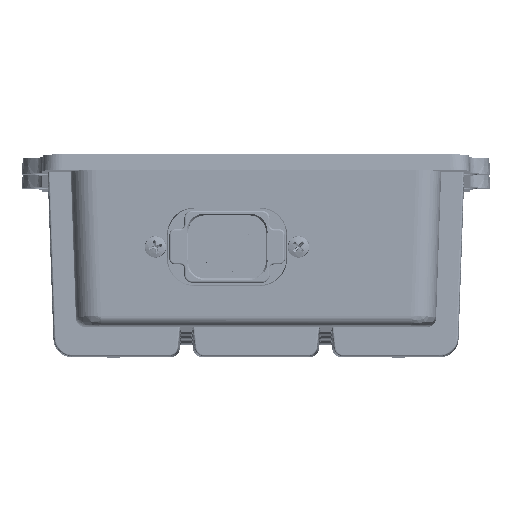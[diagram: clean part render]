
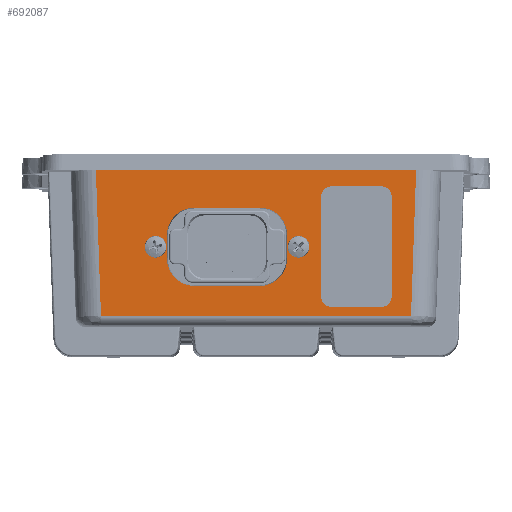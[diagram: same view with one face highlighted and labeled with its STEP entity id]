
A CAD part, top view. The second image highlights one B-rep face of the part: STEP entity #692087.
In plain terms, the highlighted planar face has unit normal (0, 0, 1) as drawn and (-0.999, -0.035, 0) by its records, which use the part's own axes.
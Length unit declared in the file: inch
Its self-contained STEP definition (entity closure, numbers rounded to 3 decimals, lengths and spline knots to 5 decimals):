
#531 = ORIENTED_EDGE ( 'NONE', *, *, #645127, .F. ) ;
#2735 = CARTESIAN_POINT ( 'NONE',  ( -3.74804, 0.73853, -1.10803 ) ) ;
#2767 = DIRECTION ( 'NONE',  ( 0.035, -0.999, 0. ) ) ;
#4236 = EDGE_CURVE ( 'NONE', #341285, #421535, #667146, .T. ) ;
#6109 = DIRECTION ( 'NONE',  ( 0., 0., -1. ) ) ;
#9907 = DIRECTION ( 'NONE',  ( 0., 0., -1. ) ) ;
#10429 = EDGE_LOOP ( 'NONE', ( #68180, #202149 ) ) ;
#11152 = EDGE_CURVE ( 'NONE', #421535, #137934, #320099, .T. ) ;
#18529 = ORIENTED_EDGE ( 'NONE', *, *, #279021, .F. ) ;
#18682 = VERTEX_POINT ( 'NONE', #694964 ) ;
#29589 = DIRECTION ( 'NONE',  ( 0.999, 0.035, 0. ) ) ;
#42112 = EDGE_LOOP ( 'NONE', ( #18529, #544403, #272720, #185116 ) ) ;
#42315 = AXIS2_PLACEMENT_3D ( 'NONE', #684395, #590003, #304230 ) ;
#43133 = LINE ( 'NONE', #531613, #76132 ) ;
#49088 = CARTESIAN_POINT ( 'NONE',  ( -3.7701, 1.37039, -0.76553 ) ) ;
#55108 = VERTEX_POINT ( 'NONE', #213773 ) ;
#59436 = EDGE_CURVE ( 'NONE', #110384, #229589, #490643, .T. ) ;
#63125 = ORIENTED_EDGE ( 'NONE', *, *, #559568, .F. ) ;
#68180 = ORIENTED_EDGE ( 'NONE', *, *, #72171, .T. ) ;
#68612 = EDGE_CURVE ( 'NONE', #413673, #376310, #91256, .T. ) ;
#72171 = EDGE_CURVE ( 'NONE', #376310, #413673, #407100, .T. ) ;
#74723 = CARTESIAN_POINT ( 'NONE',  ( -3.75309, 0.88331, -1.25 ) ) ;
#76132 = VECTOR ( 'NONE', #267153, 39.37008 ) ;
#82114 = CARTESIAN_POINT ( 'NONE',  ( -3.75641, 0.97825, -1.25 ) ) ;
#85620 = DIRECTION ( 'NONE',  ( -0.999, -0.035, 0. ) ) ;
#88650 = EDGE_LOOP ( 'NONE', ( #185360, #591407 ) ) ;
#91256 = CIRCLE ( 'NONE', #483583, 0.09499 ) ;
#102273 = EDGE_CURVE ( 'NONE', #229589, #110384, #434907, .T. ) ;
#104206 = CARTESIAN_POINT ( 'NONE',  ( -3.73608, 0.39624, 0.04553 ) ) ;
#107602 = CARTESIAN_POINT ( 'NONE',  ( -3.72298, 0.02099, 2.2375 ) ) ;
#109252 = DIRECTION ( 'NONE',  ( -0.035, 0.999, 0. ) ) ;
#110384 = VERTEX_POINT ( 'NONE', #82114 ) ;
#113435 = DIRECTION ( 'NONE',  ( 0.999, 0.035, 0. ) ) ;
#120580 = CARTESIAN_POINT ( 'NONE',  ( -3.75309, 0.88331, 0.53 ) ) ;
#122521 = CARTESIAN_POINT ( 'NONE',  ( -3.7701, 1.37039, 0.04553 ) ) ;
#122800 = EDGE_LOOP ( 'NONE', ( #239616, #232354, #698345, #516011, #331138, #63125, #531, #325919 ) ) ;
#124257 = EDGE_CURVE ( 'NONE', #296387, #18682, #513990, .T. ) ;
#130752 = EDGE_CURVE ( 'NONE', #269531, #296387, #328037, .T. ) ;
#137934 = VERTEX_POINT ( 'NONE', #122521 ) ;
#152510 = VECTOR ( 'NONE', #588687, 39.37008 ) ;
#160514 = CARTESIAN_POINT ( 'NONE',  ( -3.78633, 1.835, 1.99252 ) ) ;
#168742 = VERTEX_POINT ( 'NONE', #160514 ) ;
#172459 = VERTEX_POINT ( 'NONE', #49088 ) ;
#178977 = AXIS2_PLACEMENT_3D ( 'NONE', #264719, #319155, #373385 ) ;
#179857 = CARTESIAN_POINT ( 'NONE',  ( -3.7701, 1.37039, -0.76553 ) ) ;
#185116 = ORIENTED_EDGE ( 'NONE', *, *, #130752, .F. ) ;
#185360 = ORIENTED_EDGE ( 'NONE', *, *, #59436, .T. ) ;
#187586 = AXIS2_PLACEMENT_3D ( 'NONE', #120580, #113435, #619748 ) ;
#197352 = DIRECTION ( 'NONE',  ( 0.035, -0.999, 0. ) ) ;
#201449 = VECTOR ( 'NONE', #290550, 39.37008 ) ;
#202149 = ORIENTED_EDGE ( 'NONE', *, *, #68612, .T. ) ;
#213773 = CARTESIAN_POINT ( 'NONE',  ( -3.73608, 0.39624, -0.76553 ) ) ;
#225724 = CARTESIAN_POINT ( 'NONE',  ( -3.75815, 1.02809, 0.38803 ) ) ;
#229589 = VERTEX_POINT ( 'NONE', #232560 ) ;
#232354 = ORIENTED_EDGE ( 'NONE', *, *, #4236, .F. ) ;
#232560 = CARTESIAN_POINT ( 'NONE',  ( -3.74978, 0.78838, -1.25 ) ) ;
#235830 = VECTOR ( 'NONE', #9907, 39.37008 ) ;
#238965 = DIRECTION ( 'NONE',  ( -0.035, 0.999, -0.035 ) ) ;
#239616 = ORIENTED_EDGE ( 'NONE', *, *, #11152, .F. ) ;
#244450 = DIRECTION ( 'NONE',  ( 0.999, 0.035, 0. ) ) ;
#248620 = LINE ( 'NONE', #367809, #152510 ) ;
#250300 = CIRCLE ( 'NONE', #42315, 0.3425 ) ;
#264719 = CARTESIAN_POINT ( 'NONE',  ( -3.75815, 1.02809, -0.76553 ) ) ;
#267153 = DIRECTION ( 'NONE',  ( 0., 0., -1. ) ) ;
#269531 = VERTEX_POINT ( 'NONE', #560451 ) ;
#272720 = ORIENTED_EDGE ( 'NONE', *, *, #124257, .F. ) ;
#279021 = EDGE_CURVE ( 'NONE', #168742, #269531, #614599, .T. ) ;
#290550 = DIRECTION ( 'NONE',  ( -0.035, 0.999, 0. ) ) ;
#296387 = VERTEX_POINT ( 'NONE', #647683 ) ;
#296718 = CARTESIAN_POINT ( 'NONE',  ( -3.72225, -0.00006, 2.2375 ) ) ;
#300903 = CARTESIAN_POINT ( 'NONE',  ( -3.75641, 0.97825, 0.53 ) ) ;
#302098 = EDGE_CURVE ( 'NONE', #436865, #55108, #392870, .T. ) ;
#303896 = FACE_OUTER_BOUND ( 'NONE', #42112, .T. ) ;
#304230 = DIRECTION ( 'NONE',  ( -0.035, 0.999, 0. ) ) ;
#310244 = CARTESIAN_POINT ( 'NONE',  ( -3.74804, 0.73853, 0.38803 ) ) ;
#319155 = DIRECTION ( 'NONE',  ( -0.999, -0.035, 0. ) ) ;
#320099 = CIRCLE ( 'NONE', #701439, 0.3425 ) ;
#320275 = LINE ( 'NONE', #541052, #381739 ) ;
#325919 = ORIENTED_EDGE ( 'NONE', *, *, #525007, .F. ) ;
#328037 = LINE ( 'NONE', #107602, #449732 ) ;
#328351 = CARTESIAN_POINT ( 'NONE',  ( -3.75309, 0.88331, -1.25 ) ) ;
#331138 = ORIENTED_EDGE ( 'NONE', *, *, #302098, .F. ) ;
#341285 = VERTEX_POINT ( 'NONE', #310244 ) ;
#347392 = VECTOR ( 'NONE', #476631, 39.37008 ) ;
#358155 = FACE_BOUND ( 'NONE', #88650, .T. ) ;
#367809 = CARTESIAN_POINT ( 'NONE',  ( -3.73608, 0.39624, -0.76553 ) ) ;
#373385 = DIRECTION ( 'NONE',  ( -0.035, 0.999, 0. ) ) ;
#376310 = VERTEX_POINT ( 'NONE', #300903 ) ;
#381739 = VECTOR ( 'NONE', #421747, 39.37008 ) ;
#382965 = CARTESIAN_POINT ( 'NONE',  ( -3.75815, 1.02809, -1.10803 ) ) ;
#389757 = DIRECTION ( 'NONE',  ( 0.999, 0.035, 0. ) ) ;
#392870 = CIRCLE ( 'NONE', #496684, 0.3425 ) ;
#396178 = AXIS2_PLACEMENT_3D ( 'NONE', #296718, #622587, #626172 ) ;
#407100 = CIRCLE ( 'NONE', #187586, 0.09499 ) ;
#409615 = AXIS2_PLACEMENT_3D ( 'NONE', #328351, #389757, #2767 ) ;
#413673 = VERTEX_POINT ( 'NONE', #475493 ) ;
#421535 = VERTEX_POINT ( 'NONE', #510833 ) ;
#421747 = DIRECTION ( 'NONE',  ( 0.035, -0.999, 0. ) ) ;
#434907 = CIRCLE ( 'NONE', #631779, 0.09499 ) ;
#436865 = VERTEX_POINT ( 'NONE', #2735 ) ;
#445507 = CARTESIAN_POINT ( 'NONE',  ( -3.7199, -0.06724, -1.92609 ) ) ;
#449732 = VECTOR ( 'NONE', #6109, 39.37008 ) ;
#449769 = EDGE_CURVE ( 'NONE', #168742, #18682, #43133, .T. ) ;
#470874 = DIRECTION ( 'NONE',  ( 0.035, -0.999, 0. ) ) ;
#475493 = CARTESIAN_POINT ( 'NONE',  ( -3.74978, 0.78838, 0.53 ) ) ;
#476631 = DIRECTION ( 'NONE',  ( 0.035, -0.999, -0.035 ) ) ;
#483583 = AXIS2_PLACEMENT_3D ( 'NONE', #525198, #29589, #470874 ) ;
#490643 = CIRCLE ( 'NONE', #409615, 0.09499 ) ;
#496684 = AXIS2_PLACEMENT_3D ( 'NONE', #557649, #673377, #109252 ) ;
#498917 = EDGE_CURVE ( 'NONE', #55108, #653362, #248620, .T. ) ;
#502209 = CIRCLE ( 'NONE', #178977, 0.3425 ) ;
#510395 = PLANE ( 'NONE',  #396178 ) ;
#510833 = CARTESIAN_POINT ( 'NONE',  ( -3.75815, 1.02809, 0.38803 ) ) ;
#513990 = LINE ( 'NONE', #445507, #528946 ) ;
#516011 = ORIENTED_EDGE ( 'NONE', *, *, #498917, .F. ) ;
#521076 = FACE_BOUND ( 'NONE', #122800, .T. ) ;
#525007 = EDGE_CURVE ( 'NONE', #137934, #172459, #661261, .T. ) ;
#525198 = CARTESIAN_POINT ( 'NONE',  ( -3.75309, 0.88331, 0.53 ) ) ;
#528946 = VECTOR ( 'NONE', #238965, 39.37008 ) ;
#531613 = CARTESIAN_POINT ( 'NONE',  ( -3.78633, 1.835, 1.11875 ) ) ;
#541052 = CARTESIAN_POINT ( 'NONE',  ( -3.75815, 1.02809, -1.10803 ) ) ;
#544403 = ORIENTED_EDGE ( 'NONE', *, *, #449769, .T. ) ;
#549222 = EDGE_CURVE ( 'NONE', #653362, #341285, #250300, .T. ) ;
#557649 = CARTESIAN_POINT ( 'NONE',  ( -3.74804, 0.73853, -0.76553 ) ) ;
#559568 = EDGE_CURVE ( 'NONE', #582344, #436865, #320275, .T. ) ;
#560314 = CARTESIAN_POINT ( 'NONE',  ( -3.7181, -0.11884, 1.92429 ) ) ;
#560451 = CARTESIAN_POINT ( 'NONE',  ( -3.72298, 0.02099, 1.92917 ) ) ;
#582344 = VERTEX_POINT ( 'NONE', #382965 ) ;
#588687 = DIRECTION ( 'NONE',  ( 0., 0., 1. ) ) ;
#590003 = DIRECTION ( 'NONE',  ( -0.999, -0.035, 0. ) ) ;
#591407 = ORIENTED_EDGE ( 'NONE', *, *, #102273, .T. ) ;
#614599 = LINE ( 'NONE', #560314, #347392 ) ;
#619748 = DIRECTION ( 'NONE',  ( 0.035, -0.999, 0. ) ) ;
#622587 = DIRECTION ( 'NONE',  ( -0.999, -0.035, 0. ) ) ;
#626172 = DIRECTION ( 'NONE',  ( -0.035, 0.999, 0. ) ) ;
#631779 = AXIS2_PLACEMENT_3D ( 'NONE', #74723, #244450, #197352 ) ;
#645127 = EDGE_CURVE ( 'NONE', #172459, #582344, #502209, .T. ) ;
#647683 = CARTESIAN_POINT ( 'NONE',  ( -3.72298, 0.02099, -1.92917 ) ) ;
#653362 = VERTEX_POINT ( 'NONE', #104206 ) ;
#661261 = LINE ( 'NONE', #179857, #235830 ) ;
#667146 = LINE ( 'NONE', #225724, #201449 ) ;
#673377 = DIRECTION ( 'NONE',  ( -0.999, -0.035, 0. ) ) ;
#682636 = DIRECTION ( 'NONE',  ( -0.035, 0.999, 0. ) ) ;
#684049 = FACE_BOUND ( 'NONE', #10429, .T. ) ;
#684395 = CARTESIAN_POINT ( 'NONE',  ( -3.74804, 0.73853, 0.04553 ) ) ;
#692087 = ADVANCED_FACE ( 'NONE', ( #521076, #684049, #358155, #303896 ), #510395, .T. ) ;
#693368 = CARTESIAN_POINT ( 'NONE',  ( -3.75815, 1.02809, 0.04553 ) ) ;
#694964 = CARTESIAN_POINT ( 'NONE',  ( -3.78633, 1.835, -1.99252 ) ) ;
#698345 = ORIENTED_EDGE ( 'NONE', *, *, #549222, .F. ) ;
#701439 = AXIS2_PLACEMENT_3D ( 'NONE', #693368, #85620, #682636 ) ;
